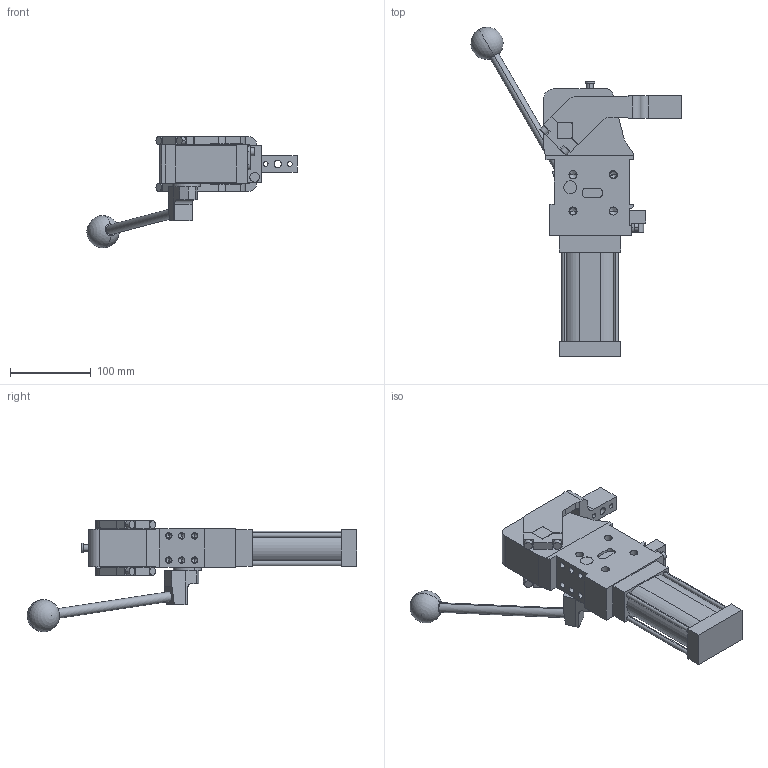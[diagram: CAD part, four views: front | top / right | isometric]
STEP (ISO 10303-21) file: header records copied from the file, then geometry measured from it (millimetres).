
FILE_DESCRIPTION (( 'STEP AP214' ), '1' );
FILE_NAME ('cplm50lbv1csi1g_16.STEP', '2023-01-26T13:12:54', ( '' ), ( '' ), 'SwSTEP 2.0', 'SolidWorks 2022', '' );
FILE_SCHEMA (( 'AUTOMOTIVE_DESIGN' ));
Length unit declared in the file: millimetre
Products named in the file (5): comando_manuale_cplm_50; blocchetto_VEP_0; meccanica_cplm_50; leva_cx_offset_15_cpl50; cplm50lbv1csi1g_16
Assembly tree (4 placements, depth 2):
  cplm50lbv1csi1g_16
    meccanica_cplm_50
    blocchetto_VEP_0
    leva_cx_offset_15_cpl50
    comando_manuale_cplm_50
Bounding box: 260.54 x 408.46 x 138.5 mm (x, y, z)
Volume: 1459795.2 mm3; surface area: 180083.6 mm2
Topology: 4 solids, 4 shells, 431 faces, 1108 edges, 691 vertices
Faces by surface type: plane 212, cylinder 167, cone 50, sphere 2
Entity records: 14373 total; most frequent: DIRECTION 2287, CARTESIAN_POINT 2253, ORIENTED_EDGE 2114, EDGE_CURVE 1057, AXIS2_PLACEMENT_3D 796, VECTOR 695, LINE 695, VERTEX_POINT 688
